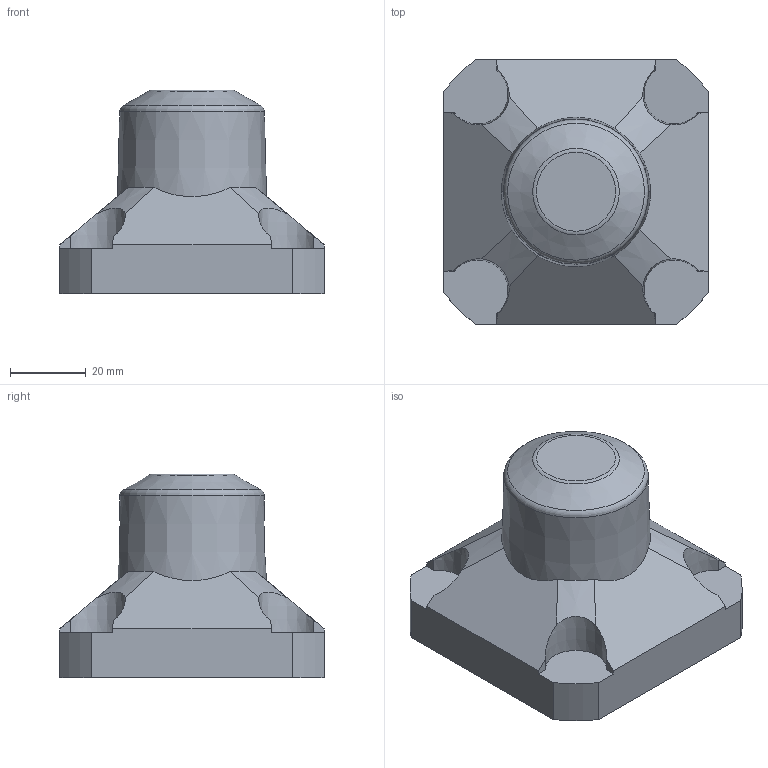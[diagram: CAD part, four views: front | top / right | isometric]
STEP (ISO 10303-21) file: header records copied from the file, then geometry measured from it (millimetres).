
FILE_DESCRIPTION(('STEP AP242'), '1');
FILE_NAME('扻豵鵨 1', '', ('UNSPECIFIED'), ('UNSPECIFIED'), 'C3D Converter', 'C3D Toolkit', '');
FILE_SCHEMA(('AP242_MANAGED_MODEL_BASED_3D_ENGINEERING_MIM_LF { 1 0 10303 442 1 1 4 }'));
Length unit declared in the file: millimetre
Bounding box: 70 x 70 x 54 mm (x, y, z)
Volume: 71993 mm3; surface area: 25239.2 mm2
Topology: 1 solids, 1 shells, 121 faces, 305 edges, 173 vertices
Faces by surface type: plane 33, bspline 32, torus 28, cone 23, cylinder 5
Full cylindrical faces by diameter (mm): 43 x1
Entity records: 5988 total; most frequent: CARTESIAN_POINT 3439, ORIENTED_EDGE 546, DIRECTION 484, EDGE_CURVE 273, AXIS2_PLACEMENT_3D 218, VERTEX_POINT 173, EDGE_LOOP 140, CIRCLE 128
